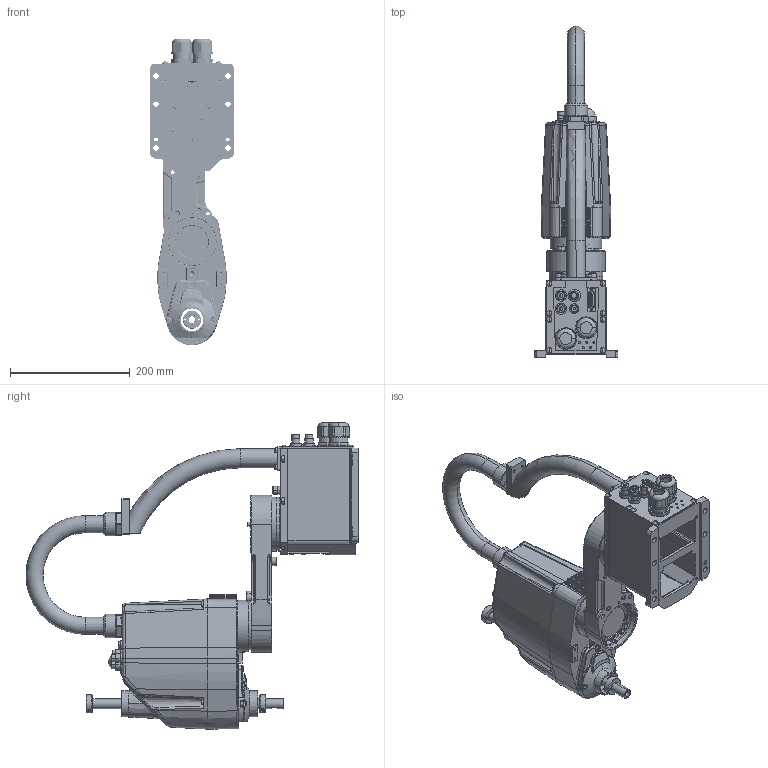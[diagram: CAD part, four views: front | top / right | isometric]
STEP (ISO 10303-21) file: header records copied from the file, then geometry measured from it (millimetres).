
FILE_DESCRIPTION((''),'2;1');
FILE_NAME('G3-301S-L_ASM','2009-01-29T',('0179539'),(''),'PRO/ENGINEER BY PARAMETRIC TECHNOLOGY CORPORATION, 2006510','PRO/ENGINEER BY PARAMETRIC TECHNOLOGY CORPORATION, 2006510','');
FILE_SCHEMA(('AUTOMOTIVE_DESIGN_CC2 { 1 2 10303 214 -1 1 5 2 }'));
Length unit declared in the file: millimetre
Products named in the file (6): BASE_S; J1_300-SL; J2; SHAFT_S; CABLE_S-300; G3-301S-L_ASM
Assembly tree (5 placements, depth 2):
  G3-301S-L_ASM
    BASE_S
    J1_300-SL
    J2
    SHAFT_S
    CABLE_S-300
Bounding box: 140 x 554.45 x 511.35 mm (x, y, z)
Volume: 2277752.7 mm3; surface area: 870902.3 mm2
Topology: 5 solids, 10 shells, 3510 faces, 8403 edges, 5138 vertices
Faces by surface type: cylinder 1389, plane 1167, cone 329, bspline 315, torus 180, sphere 130
Entity records: 149450 total; most frequent: CARTESIAN_POINT 43836, DIRECTION 17138, ORIENTED_EDGE 16606, EDGE_CURVE 8303, AXIS2_PLACEMENT_3D 6679, VERTEX_POINT 5138, EDGE_LOOP 4115, VECTOR 3780
